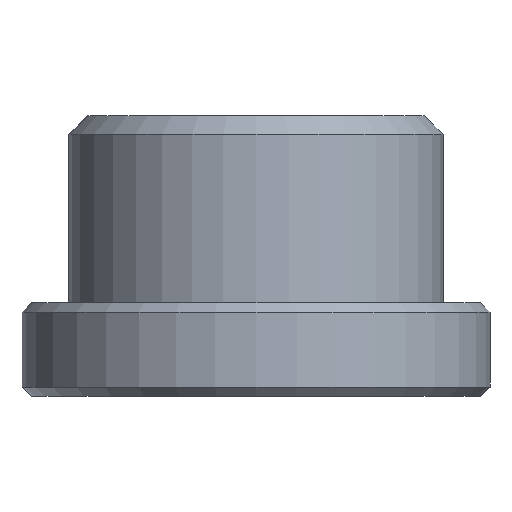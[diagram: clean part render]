
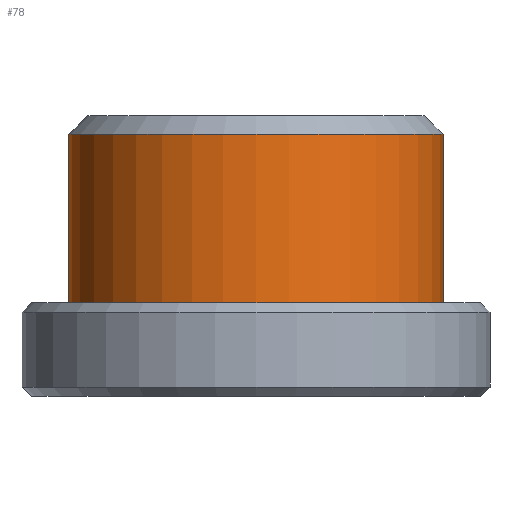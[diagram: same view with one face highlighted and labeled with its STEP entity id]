
A CAD part, front view. The second image highlights one B-rep face of the part: STEP entity #78.
In plain terms, the highlighted cylindrical face has radius 10 mm (diameter 20 mm), a full revolution.
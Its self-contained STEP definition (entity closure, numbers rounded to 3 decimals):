
#78=ADVANCED_FACE('',(#96,#97),#98,.T.);
#96=FACE_OUTER_BOUND('',#129,.T.);
#97=FACE_OUTER_BOUND('',#130,.T.);
#98=CYLINDRICAL_SURFACE('',#131,10.0);
#129=EDGE_LOOP('',(#168));
#130=EDGE_LOOP('',(#169));
#131=AXIS2_PLACEMENT_3D('',#170,#171,#172);
#168=ORIENTED_EDGE('',*,*,#214,.T.);
#169=ORIENTED_EDGE('',*,*,#209,.T.);
#170=CARTESIAN_POINT('',(0.0,0.0,15.0));
#171=DIRECTION('',(0.0,0.0,-1.0));
#172=DIRECTION('',(-1.0,0.0,0.0));
#209=EDGE_CURVE('',#221,#221,#222,.T.);
#214=EDGE_CURVE('',#231,#231,#232,.F.);
#221=VERTEX_POINT('',#243);
#222=CIRCLE('',#244,10.0);
#231=VERTEX_POINT('',#253);
#232=CIRCLE('',#254,10.0);
#243=CARTESIAN_POINT('',(10.0,0.0,5.0));
#244=AXIS2_PLACEMENT_3D('',#266,#267,#268);
#253=CARTESIAN_POINT('',(10.0,0.,14.0));
#254=AXIS2_PLACEMENT_3D('',#281,#282,#283);
#266=CARTESIAN_POINT('',(0.0,0.0,5.0));
#267=DIRECTION('',(0.0,0.0,1.0));
#268=DIRECTION('',(1.0,0.0,0.0));
#281=CARTESIAN_POINT('',(0.0,0.0,14.0));
#282=DIRECTION('',(0.0,0.0,1.0));
#283=DIRECTION('',(1.0,0.0,0.0));
